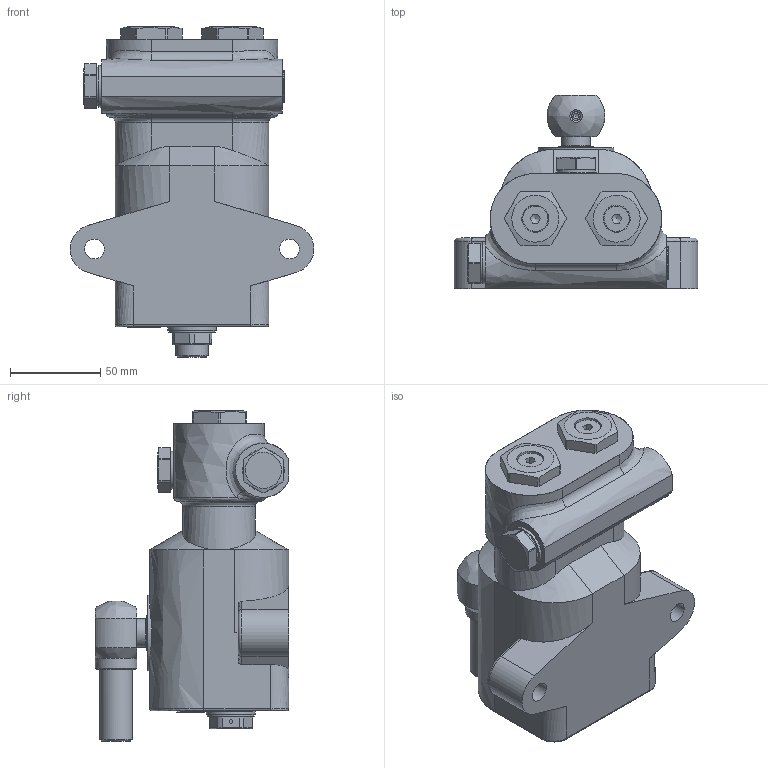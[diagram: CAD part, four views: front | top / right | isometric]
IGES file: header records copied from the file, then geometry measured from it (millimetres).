
Global section: file name: No Iges File Name specified; native system: Autodesk Inventor 2013; preprocessor: AutoDesk Inventor Iges Exporter R2013; author: christian.scardovi; date: 20240402.120910; units: millimetre
Bounding box: 134.96 x 107 x 183.1 mm (x, y, z)
Volume: 612247.4 mm3; surface area: 133688.8 mm2
Topology: 2 solids, 2 shells, 2084 faces, 5707 edges, 3735 vertices
Faces by surface type: bspline 2084
